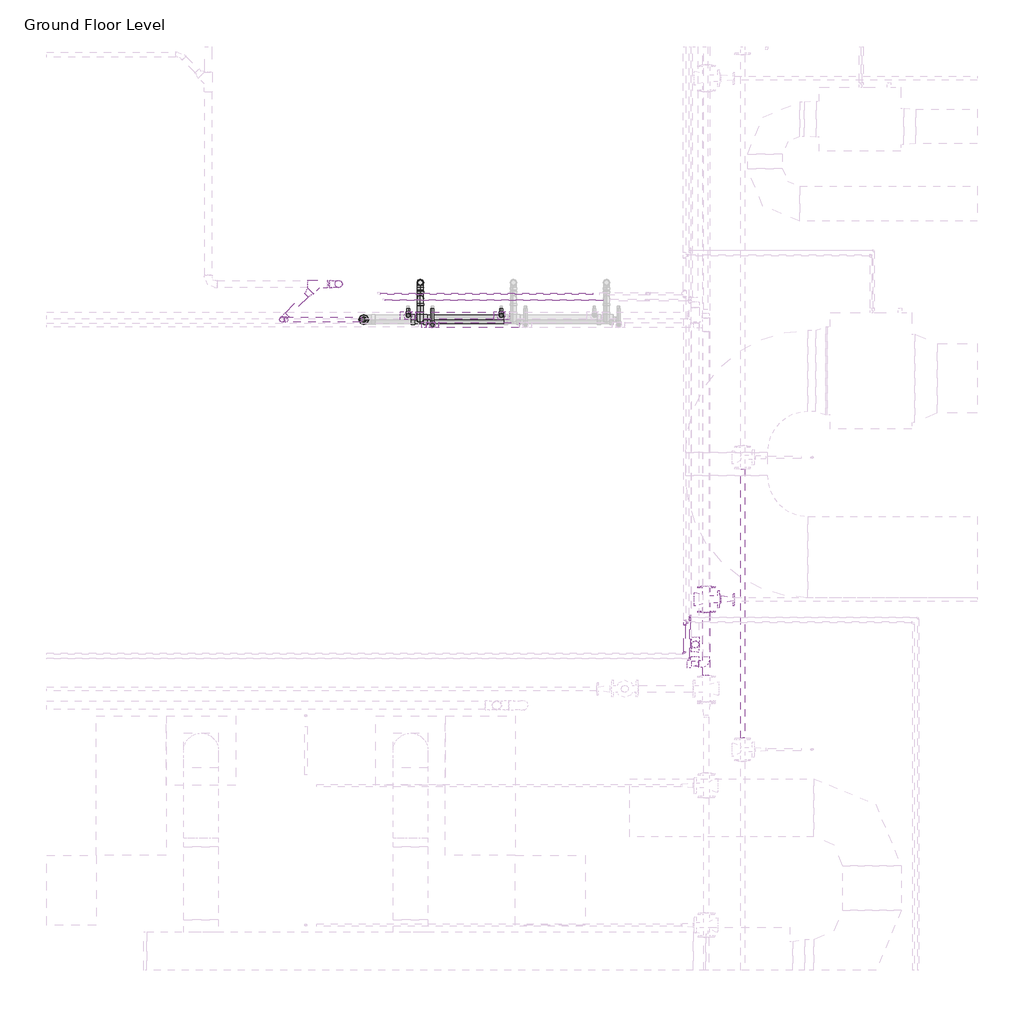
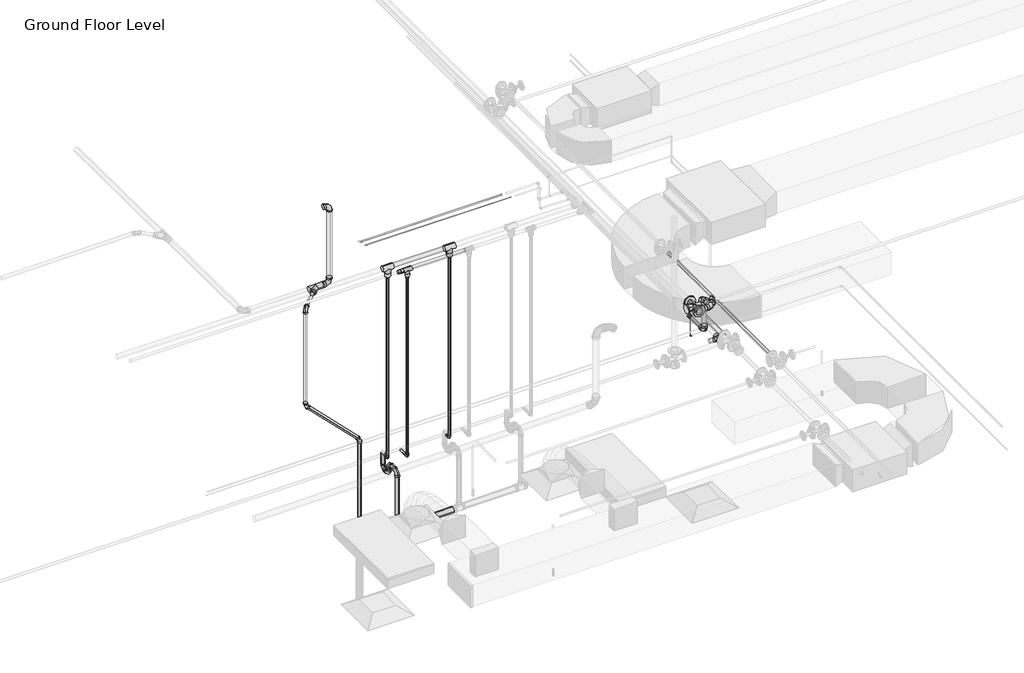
# One storey, part 16 of 74: 38 pipe fittings, 29 pipe segments.
"""IFC4 building model written with IfcOpenShell, lengths in millimetres."""

from ifc_helpers import new_model, si_unit, point, frame, frame_2d, origin, place, context, project, spatial, circle_curve, trimmed, segment, composite_curve, outline, extrude, transform, mapped, element, save
from components import m_bend_pvc_sch_40_dwv_standard_1e7bdcc1, m_bend_pvc_sch_40_dwv_standard_776e50c4, m_bend_pvc_sch_40_dwv_standard_aab78995, m_bend_pvc_sch_40_dwv_standard_952ced8a, m_bend_pvc_sch_40_dwv_standard_1eaeee76, m_bend_pvc_sch_40_dwv_standard_35448a73, m_bend_pvc_sch_40_dwv_standard_15ff6dcd, m_elbow_generic_standard_a088f956, m_elbow_generic_standard_2a704253, m_reducer_flanged_cs_class_150_standard_a7631c35, m_reducer_pvc_sch_40_dwv_standard_b84ad399, m_reducer_pvc_sch_40_dwv_standard_7e12a7c1, m_tee_generic_standard_5b2ed4d4, m_tee_generic_standard_cdc1cff5, m_tee_pvc_sch_40_standard_19f5fb6d, m_tee_reducing_sanitary_pvc_sch_40_dwv_standard_21d2848c, m_tee_round_base_flanged_cs_class_150_standard_dd767e04, m_transition_generic_standard_6dc712c0, m_transition_generic_standard_bdcfe2c1, m_transition_generic_standard_2d362458, standard_b266ab3f, standard_08ff6011, standard_d0d0b892, standard_cd25fed3, standard_83629b21, standard_57727813, standard_9d5ac8af, standard_102e5625

model = new_model("IFC4")

# Units and contexts
model_context = context("Model", 3, world=origin())
ifc_project = project(units=[si_unit("LENGTHUNIT", "METRE", prefix="MILLI")], contexts=[model_context])

# Site, building, storey
site = spatial("IfcSite", under=ifc_project)
building = spatial("IfcBuilding", under=site)
storey = spatial("IfcBuildingStorey", under=building, Name="Ground Floor Level", Elevation=900.0)

# Pipe fittings
placement = place(None, origin())
m_bend_pvc_sch_40_dwv_standard_shape = m_bend_pvc_sch_40_dwv_standard_1e7bdcc1(model_context)
element("IfcPipeFitting", 1, ObjectType="M_Bend - PVC - Sch 40 - DWV : Standard", at=placement, inside=storey, context=model_context, shape_type="MappedRepresentation", body=[
    mapped(m_bend_pvc_sch_40_dwv_standard_shape, transform((3226.7846789, -32541.2164355, 1350.0), x_axis=(0.0, 0.0, -1.0), y_axis=(0.0, -1.0, 0.0), z_axis=(-1.0, 0.0, 0.0))),
])
m_bend_pvc_sch_40_dwv_standard_2_shape = m_bend_pvc_sch_40_dwv_standard_776e50c4(model_context)
element("IfcPipeFitting", 2, ObjectType="M_Bend - PVC - Sch 40 - DWV : Standard", at=placement, inside=storey, context=model_context, shape_type="MappedRepresentation", body=[
    mapped(m_bend_pvc_sch_40_dwv_standard_2_shape, transform((3226.7846789, -32676.2164355, 1348.45), x_axis=(0.0, -0.9999500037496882, -0.009999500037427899), y_axis=(0.0, -0.009999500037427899, 0.9999500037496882), z_axis=(-1.0, 0.0, 0.0))),
])
element("IfcPipeFitting", 3, ObjectType="M_Bend - PVC - Sch 40 - DWV : Standard", at=placement, inside=storey, context=model_context, shape_type="MappedRepresentation", body=[
    mapped(m_bend_pvc_sch_40_dwv_standard_2_shape, transform((3226.7846789, -32676.2164355, 1490.0), x_axis=(0.0, 0.0, 1.0), y_axis=(0.0, -1.0, 0.0), z_axis=(1.0, 0.0, 0.0))),
])
m_bend_pvc_sch_40_dwv_standard_3_shape = m_bend_pvc_sch_40_dwv_standard_aab78995(model_context)
element("IfcPipeFitting", 4, ObjectType="M_Bend - PVC - Sch 40 - DWV : Standard", at=placement, inside=storey, context=model_context, shape_type="MappedRepresentation", body=[
    mapped(m_bend_pvc_sch_40_dwv_standard_3_shape, transform((3226.7846789, -32858.7119065, 1488.4250453), x_axis=(0.0, -0.999968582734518, -0.007926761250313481), y_axis=(0.0, 0.007926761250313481, -0.999968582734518), z_axis=(1.0, 0.0, 0.0))),
])
m_bend_pvc_sch_40_dwv_standard_4_shape = m_bend_pvc_sch_40_dwv_standard_952ced8a(model_context)
element("IfcPipeFitting", 5, ObjectType="M_Bend - PVC - Sch 40 - DWV : Standard", at=placement, inside=storey, context=model_context, shape_type="MappedRepresentation", body=[
    mapped(m_bend_pvc_sch_40_dwv_standard_4_shape, transform((2524.6562734, -32554.2948449, 4136.397893), x_axis=(0.9999500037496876, 0.0, 0.009999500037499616), y_axis=(-0.009999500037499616, 0.0, 0.9999500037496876), z_axis=(0.0, -1.0, 0.0))),
])
m_bend_pvc_sch_40_dwv_standard_5_shape = m_bend_pvc_sch_40_dwv_standard_1eaeee76(model_context)
element("IfcPipeFitting", 6, ObjectType="M_Bend - PVC - Sch 40 - DWV : Standard", at=placement, inside=storey, context=model_context, shape_type="MappedRepresentation", body=[
    mapped(m_bend_pvc_sch_40_dwv_standard_5_shape, transform((2524.640275, -32554.2948449, 5200.0), x_axis=(0.0, 0.0, 1.0), y_axis=(-1.0, 0.0, 0.0), z_axis=(0.0, -1.0, 0.0))),
])
m_bend_pvc_sch_40_dwv_standard_6_shape = m_bend_pvc_sch_40_dwv_standard_35448a73(model_context)
element("IfcPipeFitting", 7, ObjectType="M_Bend - PVC - Sch 40 - DWV : Standard", at=placement, inside=storey, context=model_context, shape_type="MappedRepresentation", body=[
    mapped(m_bend_pvc_sch_40_dwv_standard_6_shape, transform((2740.8154211, -32858.7119065, 2103.6875), x_axis=(0.0, 0.0, 1.0), y_axis=(-1.0, 0.0, 0.0), z_axis=(0.0, -1.0, 0.0))),
])
element("IfcPipeFitting", 8, ObjectType="M_Bend - PVC - Sch 40 - DWV : Standard", at=placement, inside=storey, context=model_context, shape_type="MappedRepresentation", body=[
    mapped(m_bend_pvc_sch_40_dwv_standard_6_shape, transform((2040.8154211, -32858.7119065, 2803.6875), x_axis=(0.0, 0.0, -1.0), y_axis=(1.0, 0.0, 0.0), z_axis=(0.0, -1.0, 0.0))),
])
m_bend_pvc_sch_40_dwv_standard_7_shape = m_bend_pvc_sch_40_dwv_standard_15ff6dcd(model_context)
element("IfcPipeFitting", 9, ObjectType="M_Bend - PVC - Sch 40 - DWV : Standard", at=placement, inside=storey, context=model_context, shape_type="MappedRepresentation", body=[
    mapped(m_bend_pvc_sch_40_dwv_standard_7_shape, transform((2040.8154211, -32858.7119065, 4132.2), x_axis=(0.0, 0.0, 1.0), y_axis=(0.7067664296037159, 0.7074469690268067, 0.0), z_axis=(-0.7074469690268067, 0.7067664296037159, 0.0))),
])
m_elbow_generic_standard_shape = m_elbow_generic_standard_a088f956(model_context)
element("IfcPipeFitting", 10, ObjectType="M_Elbow - Generic : Standard", at=placement, inside=storey, context=model_context, shape_type="MappedRepresentation", body=[
    mapped(m_elbow_generic_standard_shape, transform((5497.8951827, -35730.466218, 4390.0), x_axis=(1.0, 0.0, 0.0), y_axis=(0.0, 1.0, 0.0), z_axis=(0.0, 0.0, 1.0))),
])
m_elbow_generic_standard_2_shape = m_elbow_generic_standard_2a704253(model_context)
element("IfcPipeFitting", 11, ObjectType="M_Elbow - Generic : Standard", at=placement, inside=storey, context=model_context, shape_type="MappedRepresentation", body=[
    mapped(m_elbow_generic_standard_2_shape, transform((5543.9904113, -35773.5402522, 4377.5), x_axis=(1.0, 0.0, 0.0), y_axis=(0.0, 1.0, 0.0), z_axis=(0.0, 0.0, 1.0))),
])
element("IfcPipeFitting", 12, ObjectType="M_Elbow - Generic : Standard", at=placement, inside=storey, context=model_context, shape_type="MappedRepresentation", body=[
    mapped(m_elbow_generic_standard_2_shape, transform((5543.9904113, -35420.6009836, 4084.9), x_axis=(0.0, 0.0, -1.0), y_axis=(1.0, 0.0, 0.0), z_axis=(0.0, -1.0, 0.0))),
])
m_reducer_flanged_cs_class_150_standard_shape = m_reducer_flanged_cs_class_150_standard_a7631c35(model_context)
element("IfcPipeFitting", 13, ObjectType="M_Reducer - Flanged - CS - Class 150 : Standard", at=placement, inside=storey, context=model_context, shape_type="MappedRepresentation", body=[
    mapped(m_reducer_flanged_cs_class_150_standard_shape, transform((5798.6174894, -35264.7846466, 4347.5), x_axis=(1.0, 0.0, 0.0), y_axis=(0.0, 0.0, 1.0), z_axis=(0.0, -1.0, 0.0))),
])
m_reducer_pvc_sch_40_dwv_standard_shape = m_reducer_pvc_sch_40_dwv_standard_b84ad399(model_context)
element("IfcPipeFitting", 14, ObjectType="M_Reducer - PVC - Sch 40 - DWV : Standard", at=placement, inside=storey, context=model_context, shape_type="MappedRepresentation", body=[
    mapped(m_reducer_pvc_sch_40_dwv_standard_shape, transform((2740.8154211, -32858.7119065, 785.9492095), x_axis=(0.0, 0.0, 1.0), y_axis=(-1.0, 0.0, 0.0), z_axis=(0.0, -1.0, 0.0))),
])
m_reducer_pvc_sch_40_dwv_standard_2_shape = m_reducer_pvc_sch_40_dwv_standard_7e12a7c1(model_context)
element("IfcPipeFitting", 15, ObjectType="M_Reducer - PVC - Sch 40 - DWV : Standard", at=placement, inside=storey, context=model_context, shape_type="MappedRepresentation", body=[
    mapped(m_reducer_pvc_sch_40_dwv_standard_2_shape, transform((2285.3872765, -32613.9038225, 4134.1686229), x_axis=(-0.7067614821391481, -0.707433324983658, -0.0051281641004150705), y_axis=(0.7073812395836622, -0.7067747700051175, 0.009011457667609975), z_axis=(-0.009999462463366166, 0.0027413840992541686, 0.999946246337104))),
])
m_tee_generic_standard_shape = m_tee_generic_standard_5b2ed4d4(model_context)
element("IfcPipeFitting", 16, ObjectType="M_Tee - Generic : Standard", at=placement, inside=storey, context=model_context, shape_type="MappedRepresentation", body=[
    mapped(m_tee_generic_standard_shape, transform((5543.9904113, -35420.6009836, 4377.5), x_axis=(0.0, 1.0, 0.0), y_axis=(0.0, 0.0, 1.0), z_axis=(1.0, 0.0, 0.0))),
])
m_tee_generic_standard_2_shape = m_tee_generic_standard_cdc1cff5(model_context)
element("IfcPipeFitting", 17, ObjectType="M_Tee - Generic : Standard", at=placement, inside=storey, context=model_context, shape_type="MappedRepresentation", body=[
    mapped(m_tee_generic_standard_2_shape, transform((5497.8951827, -35463.1206952, 4390.0), x_axis=(0.0, 1.0, 0.0), y_axis=(-1.0, 0.0, 0.0), z_axis=(0.0, 0.0, 1.0))),
])
m_tee_pvc_sch_40_standard_shape = m_tee_pvc_sch_40_standard_19f5fb6d(model_context)
element("IfcPipeFitting", 18, ObjectType="M_Tee - PVC - Sch 40 : Standard", at=placement, inside=storey, context=model_context, shape_type="MappedRepresentation", body=[
    mapped(m_tee_pvc_sch_40_standard_shape, transform((2344.939644, -32554.2948449, 4134.6007267), x_axis=(0.9999500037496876, 0.0, 0.009999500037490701), y_axis=(2.7412470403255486e-05, 0.9999962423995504, -0.002741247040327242), z_axis=(-0.009999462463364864, 0.0027413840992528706, 0.9999462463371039))),
])
m_tee_reducing_sanitary_pvc_sch_40_dwv_standard_shape = m_tee_reducing_sanitary_pvc_sch_40_dwv_standard_21d2848c(model_context)
element("IfcPipeFitting", 19, ObjectType="M_Tee Reducing Sanitary - PVC - Sch 40 - DWV : Standard", at=placement, inside=storey, context=model_context, shape_type="MappedRepresentation", body=[
    mapped(m_tee_reducing_sanitary_pvc_sch_40_dwv_standard_shape, transform((3226.7846789, -32858.7119065, 706.4596926), x_axis=(0.9999500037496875, 0.0, 0.00999950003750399), y_axis=(0.00999950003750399, 0.0, -0.9999500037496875), z_axis=(0.0, 1.0, 0.0))),
])
m_tee_round_base_flanged_cs_class_150_standard_shape = m_tee_round_base_flanged_cs_class_150_standard_dd767e04(model_context)
element("IfcPipeFitting", 20, ObjectType="M_Tee Round Base - Flanged - CS - Class 150 : Standard", at=placement, inside=storey, context=model_context, shape_type="MappedRepresentation", body=[
    mapped(m_tee_round_base_flanged_cs_class_150_standard_shape, transform((5684.6174894, -35264.7846466, 4347.5), x_axis=(0.0, -1.0, 0.0), y_axis=(-1.0, 0.0, 0.0), z_axis=(0.0, 0.0, -1.0))),
])
m_transition_generic_standard_shape = m_transition_generic_standard_6dc712c0(model_context)
element("IfcPipeFitting", 21, ObjectType="M_Transition - Generic : Standard", at=placement, inside=storey, context=model_context, shape_type="MappedRepresentation", body=[
    mapped(m_transition_generic_standard_shape, transform((5497.8951827, -35485.3456952, 4390.0), x_axis=(0.0, -1.0, 0.0), y_axis=(1.0, 0.0, 0.0), z_axis=(0.0, 0.0, 1.0))),
])
element("IfcPipeFitting", 22, ObjectType="M_Transition - Generic : Standard", at=placement, inside=storey, context=model_context, shape_type="MappedRepresentation", body=[
    mapped(m_transition_generic_standard_shape, transform((5520.1201827, -35463.1206952, 4390.0), x_axis=(1.0, 0.0, 0.0), y_axis=(0.0, 1.0, 0.0), z_axis=(0.0, 0.0, 1.0))),
])
m_transition_generic_standard_2_shape = m_transition_generic_standard_bdcfe2c1(model_context)
element("IfcPipeFitting", 23, ObjectType="M_Transition - Generic : Standard", at=placement, inside=storey, context=model_context, shape_type="MappedRepresentation", body=[
    mapped(m_transition_generic_standard_2_shape, transform((5543.9904113, -35441.2384836, 4377.5), x_axis=(0.0, -1.0, 0.0), y_axis=(1.0, 0.0, 0.0), z_axis=(0.0, 0.0, 1.0))),
])
m_transition_generic_standard_3_shape = m_transition_generic_standard_2d362458(model_context)
element("IfcPipeFitting", 24, ObjectType="M_Transition - Generic : Standard", at=placement, inside=storey, context=model_context, shape_type="MappedRepresentation", body=[
    mapped(m_transition_generic_standard_3_shape, transform((5543.9904113, -35420.6009836, 4356.8625), x_axis=(0.0, 0.0, -1.0), y_axis=(-1.0, 0.0, 0.0), z_axis=(0.0, 1.0, 0.0))),
])
standard_shape = standard_b266ab3f(model_context)
element("IfcPipeFitting", 25, ObjectType="M_Elbow - CPVC - Sch 40 : Standard", at=placement, inside=storey, context=model_context, shape_type="MappedRepresentation", body=[
    mapped(standard_shape, transform((3922.4697583, -32824.9853451, 1690.0), x_axis=(0.0, 0.0, -1.0), y_axis=(0.0, 1.0, 0.0), z_axis=(1.0, 0.0, 0.0))),
])
element("IfcPipeFitting", 26, ObjectType="M_Elbow - CPVC - Sch 40 : Standard", at=placement, inside=storey, context=model_context, shape_type="MappedRepresentation", body=[
    mapped(standard_shape, transform((3122.4697583, -32824.9853451, 1690.0), x_axis=(0.0, 0.0, -1.0), y_axis=(0.0, 1.0, 0.0), z_axis=(1.0, 0.0, 0.0))),
])
element("IfcPipeFitting", 27, ObjectType="M_Elbow - CPVC - Sch 40 : Standard", at=placement, inside=storey, context=model_context, shape_type="MappedRepresentation", body=[
    mapped(standard_shape, transform((3331.0995995, -32905.870708, 1690.0), x_axis=(0.0, -1.0, 0.0), y_axis=(0.0, 0.0, 1.0), z_axis=(-1.0, 0.0, 0.0))),
])
standard_2_shape = standard_08ff6011(model_context)
element("IfcPipeFitting", 28, ObjectType="M_Tee - CPVC - Sch 40 : Standard", at=placement, inside=storey, context=model_context, shape_type="MappedRepresentation", body=[
    mapped(standard_2_shape, transform((3331.0995995, -32905.870708, 4250.0), x_axis=(1.0, 0.0, 0.0), y_axis=(0.0, 0.0, 1.0), z_axis=(0.0, -1.0, 0.0))),
])
standard_3_shape = standard_d0d0b892(model_context)
element("IfcPipeFitting", 29, ObjectType="M_Coupling Reducing - CPVC - Sch 40 : Standard", at=placement, inside=storey, context=model_context, shape_type="MappedRepresentation", body=[
    mapped(standard_3_shape, transform((3277.1245995, -32905.870708, 4250.0), x_axis=(-1.0, 0.0, 0.0), y_axis=(0.0, -1.0, 0.0), z_axis=(0.0, 0.0, 1.0))),
])
standard_4_shape = standard_cd25fed3(model_context)
element("IfcPipeFitting", 30, ObjectType="M_Tee - CPVC - Sch 40 : Standard", at=placement, inside=storey, context=model_context, shape_type="MappedRepresentation", body=[
    mapped(standard_4_shape, transform((3922.4697583, -32824.9853451, 4300.0), x_axis=(-1.0, 0.0, 0.0), y_axis=(0.0, 0.0, 1.0), z_axis=(0.0, 1.0, 0.0))),
])
element("IfcPipeFitting", 31, ObjectType="M_Tee - CPVC - Sch 40 : Standard", at=placement, inside=storey, context=model_context, shape_type="MappedRepresentation", body=[
    mapped(standard_4_shape, transform((3122.4697583, -32824.9853451, 4300.0), x_axis=(-1.0, 0.0, 0.0), y_axis=(0.0, 0.0, 1.0), z_axis=(0.0, 1.0, 0.0))),
])
standard_5_shape = standard_83629b21(model_context)
element("IfcPipeFitting", 32, ObjectType="M_Coupling Reducing - CPVC - Sch 40 : Standard", at=placement, inside=storey, context=model_context, shape_type="MappedRepresentation", body=[
    mapped(standard_5_shape, transform((3331.0995995, -32905.870708, 4196.025), x_axis=(0.0, 0.0, -1.0), y_axis=(-1.0, 0.0, 0.0), z_axis=(0.0, 1.0, 0.0))),
])
standard_6_shape = standard_57727813(model_context)
element("IfcPipeFitting", 33, ObjectType="M_Elbow - CPVC - Sch 40 : Standard", at=placement, inside=storey, context=model_context, shape_type="MappedRepresentation", body=[
    mapped(standard_6_shape, transform((5589.646628, -35653.7116931, 4719.8375), x_axis=(0.0, 0.0, 1.0), y_axis=(-0.06975647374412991, -0.997564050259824, 0.0), z_axis=(0.997564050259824, -0.06975647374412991, 0.0))),
])
element("IfcPipeFitting", 34, ObjectType="M_Elbow - CPVC - Sch 40 : Standard", at=placement, inside=storey, context=model_context, shape_type="MappedRepresentation", body=[
    mapped(standard_6_shape, transform((5585.1617227, -35819.459752, 4719.8375), x_axis=(1.0, 0.0, 0.0), y_axis=(0.0, 1.0, 0.0), z_axis=(0.0, 0.0, 1.0))),
])
element("IfcPipeFitting", 35, ObjectType="M_Elbow - CPVC - Sch 40 : Standard", at=placement, inside=storey, context=model_context, shape_type="MappedRepresentation", body=[
    mapped(standard_6_shape, transform((5589.646628, -35653.7116931, 4300.0), x_axis=(0.0, 0.0, -1.0), y_axis=(0.0, 1.0, 0.0), z_axis=(1.0, 0.0, 0.0))),
])
standard_7_shape = standard_9d5ac8af(model_context)
element("IfcPipeFitting", 36, ObjectType="M_Coupling Reducing - CPVC - Sch 40 : Standard", at=placement, inside=storey, context=model_context, shape_type="MappedRepresentation", body=[
    mapped(standard_7_shape, transform((3922.4697583, -32824.9853451, 4233.325), x_axis=(0.0, 0.0, -1.0), y_axis=(-1.0, 0.0, 0.0), z_axis=(0.0, 1.0, 0.0))),
])
element("IfcPipeFitting", 37, ObjectType="M_Coupling Reducing - CPVC - Sch 40 : Standard", at=placement, inside=storey, context=model_context, shape_type="MappedRepresentation", body=[
    mapped(standard_7_shape, transform((3122.4697583, -32824.9853451, 4233.325), x_axis=(0.0, 0.0, -1.0), y_axis=(-1.0, 0.0, 0.0), z_axis=(0.0, 1.0, 0.0))),
])
standard_8_shape = standard_102e5625(model_context)
element("IfcPipeFitting", 38, ObjectType="M_Elbow - CPVC - Sch 40 : Standard", at=placement, inside=storey, context=model_context, shape_type="MappedRepresentation", body=[
    mapped(standard_8_shape, transform((5680.5575802, -35819.459752, 4250.0), x_axis=(1.0, 0.0, 0.0), y_axis=(0.0, 1.0, 0.0), z_axis=(0.0, 0.0, 1.0))),
])

# Pipe segments
element("IfcPipeSegment", 39, ObjectType="CPVC", at=placement, inside=storey, context=model_context, shape_type="SweptSolid", body=[
    extrude(outline(composite_curve([segment(trimmed(circle_curve(frame_2d((5589.646628, -35653.7116931)), 30.1625), [point((5559.484128, -35653.7116931))], [point((5589.646628, -35623.5491931))], False, "CARTESIAN"), True, "CONTINUOUS"), segment(trimmed(circle_curve(frame_2d((5589.646628, -35653.7116931)), 30.1625), [point((5589.646628, -35623.5491931))], [point((5619.809128, -35653.7116931))], False, "CARTESIAN"), True, "CONTINUOUS"), segment(trimmed(circle_curve(frame_2d((5589.646628, -35653.7116931)), 30.1625), [point((5619.809128, -35653.7116931))], [point((5589.646628, -35683.8741931))], False, "CARTESIAN"), True, "CONTINUOUS"), segment(trimmed(circle_curve(frame_2d((5589.646628, -35653.7116931)), 30.1625), [point((5589.646628, -35683.8741931))], [point((5559.484128, -35653.7116931))], False, "CARTESIAN"), True, "CONTINUOUS")], self_intersect=False)), frame((0.0, 0.0, 4364.29375), z_axis=(0.0, 0.0, 1.0), x_axis=(1.0, 0.0, 0.0)), (0.0, 0.0, 1.0), 291.25),
])
element("IfcPipeSegment", 40, ObjectType="CPVC", at=placement, inside=storey, context=model_context, shape_type="SweptSolid", body=[
    extrude(outline(composite_curve([segment(trimmed(circle_curve(frame_2d((1690.0, 3922.4697583)), 13.335), [point((1690.0, 3935.8047583))], [point((1703.335, 3922.4697583))], False, "CARTESIAN"), True, "CONTINUOUS"), segment(trimmed(circle_curve(frame_2d((1690.0, 3922.4697583)), 13.335), [point((1703.335, 3922.4697583))], [point((1690.0, 3909.1347583))], False, "CARTESIAN"), True, "CONTINUOUS"), segment(trimmed(circle_curve(frame_2d((1690.0, 3922.4697583)), 13.335), [point((1690.0, 3909.1347583))], [point((1676.665, 3922.4697583))], False, "CARTESIAN"), True, "CONTINUOUS"), segment(trimmed(circle_curve(frame_2d((1690.0, 3922.4697583)), 13.335), [point((1676.665, 3922.4697583))], [point((1690.0, 3935.8047583))], False, "CARTESIAN"), True, "CONTINUOUS")], self_intersect=False)), frame((0.0, -32789.6602951, 0.0), z_axis=(0.0, 1.0, 0.0), x_axis=(0.0, 0.0, 1.0)), (0.0, 0.0, 1.0), 24.8756485),
])
element("IfcPipeSegment", 41, ObjectType="CPVC", at=placement, inside=storey, context=model_context, shape_type="SweptSolid", body=[
    extrude(outline(composite_curve([segment(trimmed(circle_curve(frame_2d((3922.4697583, -32824.9853451)), 13.335), [point((3935.8047583, -32824.9853451))], [point((3922.4697583, -32838.3203451))], False, "CARTESIAN"), True, "CONTINUOUS"), segment(trimmed(circle_curve(frame_2d((3922.4697583, -32824.9853451)), 13.335), [point((3922.4697583, -32838.3203451))], [point((3909.1347583, -32824.9853451))], False, "CARTESIAN"), True, "CONTINUOUS"), segment(trimmed(circle_curve(frame_2d((3922.4697583, -32824.9853451)), 13.335), [point((3909.1347583, -32824.9853451))], [point((3922.4697583, -32811.6503451))], False, "CARTESIAN"), True, "CONTINUOUS"), segment(trimmed(circle_curve(frame_2d((3922.4697583, -32824.9853451)), 13.335), [point((3922.4697583, -32811.6503451))], [point((3935.8047583, -32824.9853451))], False, "CARTESIAN"), True, "CONTINUOUS")], self_intersect=False)), frame((0.0, 0.0, 1725.32505), z_axis=(0.0, 0.0, 1.0), x_axis=(1.0, 0.0, 0.0)), (0.0, 0.0, 1.0), 2431.503075),
])
element("IfcPipeSegment", 42, ObjectType="CPVC", at=placement, inside=storey, context=model_context, shape_type="SweptSolid", body=[
    extrude(outline(composite_curve([segment(trimmed(circle_curve(frame_2d((-32824.9853451, 4300.0)), 30.1625), [point((-32855.1478451, 4300.0))], [point((-32824.9853451, 4330.1625))], False, "CARTESIAN"), True, "CONTINUOUS"), segment(trimmed(circle_curve(frame_2d((-32824.9853451, 4300.0)), 30.1625), [point((-32824.9853451, 4330.1625))], [point((-32794.8228451, 4300.0))], False, "CARTESIAN"), True, "CONTINUOUS"), segment(trimmed(circle_curve(frame_2d((-32824.9853451, 4300.0)), 30.1625), [point((-32794.8228451, 4300.0))], [point((-32824.9853451, 4269.8375))], False, "CARTESIAN"), True, "CONTINUOUS"), segment(trimmed(circle_curve(frame_2d((-32824.9853451, 4300.0)), 30.1625), [point((-32824.9853451, 4269.8375))], [point((-32855.1478451, 4300.0))], False, "CARTESIAN"), True, "CONTINUOUS")], self_intersect=False)), frame((3189.1447583, 0.0, 0.0), z_axis=(1.0, 0.0, 0.0), x_axis=(0.0, 1.0, 0.0)), (0.0, 0.0, 1.0), 666.65),
])
element("IfcPipeSegment", 43, ObjectType="CPVC", at=placement, inside=storey, context=model_context, shape_type="SweptSolid", body=[
    extrude(outline(composite_curve([segment(trimmed(circle_curve(frame_2d((1690.0, 3122.4697583)), 13.335), [point((1690.0, 3135.8047583))], [point((1703.335, 3122.4697583))], False, "CARTESIAN"), True, "CONTINUOUS"), segment(trimmed(circle_curve(frame_2d((1690.0, 3122.4697583)), 13.335), [point((1703.335, 3122.4697583))], [point((1690.0, 3109.1347583))], False, "CARTESIAN"), True, "CONTINUOUS"), segment(trimmed(circle_curve(frame_2d((1690.0, 3122.4697583)), 13.335), [point((1690.0, 3109.1347583))], [point((1676.665, 3122.4697583))], False, "CARTESIAN"), True, "CONTINUOUS"), segment(trimmed(circle_curve(frame_2d((1690.0, 3122.4697583)), 13.335), [point((1676.665, 3122.4697583))], [point((1690.0, 3135.8047583))], False, "CARTESIAN"), True, "CONTINUOUS")], self_intersect=False)), frame((0.0, -32789.6602951, 0.0), z_axis=(0.0, 1.0, 0.0), x_axis=(0.0, 0.0, 1.0)), (0.0, 0.0, 1.0), 24.8756485),
])
element("IfcPipeSegment", 44, ObjectType="CPVC", at=placement, inside=storey, context=model_context, shape_type="SweptSolid", body=[
    extrude(outline(composite_curve([segment(trimmed(circle_curve(frame_2d((3122.4697583, -32824.9853451)), 13.335), [point((3135.8047583, -32824.9853451))], [point((3122.4697583, -32838.3203451))], False, "CARTESIAN"), True, "CONTINUOUS"), segment(trimmed(circle_curve(frame_2d((3122.4697583, -32824.9853451)), 13.335), [point((3122.4697583, -32838.3203451))], [point((3109.1347583, -32824.9853451))], False, "CARTESIAN"), True, "CONTINUOUS"), segment(trimmed(circle_curve(frame_2d((3122.4697583, -32824.9853451)), 13.335), [point((3109.1347583, -32824.9853451))], [point((3122.4697583, -32811.6503451))], False, "CARTESIAN"), True, "CONTINUOUS"), segment(trimmed(circle_curve(frame_2d((3122.4697583, -32824.9853451)), 13.335), [point((3122.4697583, -32811.6503451))], [point((3135.8047583, -32824.9853451))], False, "CARTESIAN"), True, "CONTINUOUS")], self_intersect=False)), frame((0.0, 0.0, 1725.32505), z_axis=(0.0, 0.0, 1.0), x_axis=(1.0, 0.0, 0.0)), (0.0, 0.0, 1.0), 2431.503075),
])
element("IfcPipeSegment", 45, ObjectType="CPVC", at=placement, inside=storey, context=model_context, shape_type="SweptSolid", body=[
    extrude(outline(composite_curve([segment(trimmed(circle_curve(frame_2d((1690.0, 3331.0995995)), 13.335), [point((1690.0, 3317.7645995))], [point((1676.665, 3331.0995995))], False, "CARTESIAN"), True, "CONTINUOUS"), segment(trimmed(circle_curve(frame_2d((1690.0, 3331.0995995)), 13.335), [point((1676.665, 3331.0995995))], [point((1690.0, 3344.4345995))], False, "CARTESIAN"), True, "CONTINUOUS"), segment(trimmed(circle_curve(frame_2d((1690.0, 3331.0995995)), 13.335), [point((1690.0, 3344.4345995))], [point((1703.335, 3331.0995995))], False, "CARTESIAN"), True, "CONTINUOUS"), segment(trimmed(circle_curve(frame_2d((1690.0, 3331.0995995)), 13.335), [point((1703.335, 3331.0995995))], [point((1690.0, 3317.7645995))], False, "CARTESIAN"), True, "CONTINUOUS")], self_intersect=False)), frame((0.0, -32870.545658, 0.0), z_axis=(0.0, 1.0, 0.0), x_axis=(0.0, 0.0, 1.0)), (0.0, 0.0, 1.0), 105.7610114),
])
element("IfcPipeSegment", 46, ObjectType="CPVC", at=placement, inside=storey, context=model_context, shape_type="SweptSolid", body=[
    extrude(outline(composite_curve([segment(trimmed(circle_curve(frame_2d((3331.0995995, -32905.870708)), 13.335), [point((3317.7645995, -32905.870708))], [point((3331.0995995, -32892.535708))], False, "CARTESIAN"), True, "CONTINUOUS"), segment(trimmed(circle_curve(frame_2d((3331.0995995, -32905.870708)), 13.335), [point((3331.0995995, -32892.535708))], [point((3344.4345995, -32905.870708))], False, "CARTESIAN"), True, "CONTINUOUS"), segment(trimmed(circle_curve(frame_2d((3331.0995995, -32905.870708)), 13.335), [point((3344.4345995, -32905.870708))], [point((3331.0995995, -32919.205708))], False, "CARTESIAN"), True, "CONTINUOUS"), segment(trimmed(circle_curve(frame_2d((3331.0995995, -32905.870708)), 13.335), [point((3331.0995995, -32919.205708))], [point((3317.7645995, -32905.870708))], False, "CARTESIAN"), True, "CONTINUOUS")], self_intersect=False)), frame((0.0, 0.0, 1725.32505), z_axis=(0.0, 0.0, 1.0), x_axis=(1.0, 0.0, 0.0)), (0.0, 0.0, 1.0), 2407.883075),
])
element("IfcPipeSegment", 47, ObjectType="CPVC", at=placement, inside=storey, context=model_context, shape_type="SweptSolid", body=[
    extrude(outline(composite_curve([segment(trimmed(circle_curve(frame_2d((-32905.870708, 4250.0)), 21.082), [point((-32884.788708, 4250.0))], [point((-32905.870708, 4228.918))], False, "CARTESIAN"), True, "CONTINUOUS"), segment(trimmed(circle_curve(frame_2d((-32905.870708, 4250.0)), 21.082), [point((-32905.870708, 4228.918))], [point((-32926.952708, 4250.0))], False, "CARTESIAN"), True, "CONTINUOUS"), segment(trimmed(circle_curve(frame_2d((-32905.870708, 4250.0)), 21.082), [point((-32926.952708, 4250.0))], [point((-32905.870708, 4271.082))], False, "CARTESIAN"), True, "CONTINUOUS"), segment(trimmed(circle_curve(frame_2d((-32905.870708, 4250.0)), 21.082), [point((-32905.870708, 4271.082))], [point((-32884.788708, 4250.0))], False, "CARTESIAN"), True, "CONTINUOUS")], self_intersect=False)), frame((3385.0745995, 0.0, 0.0), z_axis=(1.0, 0.0, 0.0), x_axis=(0.0, 1.0, 0.0)), (0.0, 0.0, 1.0), 692.05),
])
element("IfcPipeSegment", 48, ObjectType="CPVC", at=placement, inside=storey, context=model_context, shape_type="SweptSolid", body=[
    extrude(outline(composite_curve([segment(trimmed(circle_curve(frame_2d((-35819.459752, 4250.0)), 24.13), [point((-35843.589752, 4250.0))], [point((-35819.459752, 4274.13))], False, "CARTESIAN"), True, "CONTINUOUS"), segment(trimmed(circle_curve(frame_2d((-35819.459752, 4250.0)), 24.13), [point((-35819.459752, 4274.13))], [point((-35795.329752, 4250.0))], False, "CARTESIAN"), True, "CONTINUOUS"), segment(trimmed(circle_curve(frame_2d((-35819.459752, 4250.0)), 24.13), [point((-35795.329752, 4250.0))], [point((-35819.459752, 4225.87))], False, "CARTESIAN"), True, "CONTINUOUS"), segment(trimmed(circle_curve(frame_2d((-35819.459752, 4250.0)), 24.13), [point((-35819.459752, 4225.87))], [point((-35843.589752, 4250.0))], False, "CARTESIAN"), True, "CONTINUOUS")], self_intersect=False)), frame((5558.4766944, 0.0, 0.0), z_axis=(1.0, 0.0, 0.0), x_axis=(0.0, 1.0, 0.0)), (0.0, 0.0, 1.0), 59.3619358),
])
element("IfcPipeSegment", 49, ObjectType="Copper", at=placement, inside=storey, context=model_context, shape_type="SweptSolid", body=[
    extrude(outline(composite_curve([segment(trimmed(circle_curve(frame_2d((4390.0, 5497.8951827)), 6.5), [point((4390.0, 5491.3951827))], [point((4383.5, 5497.8951827))], False, "CARTESIAN"), True, "CONTINUOUS"), segment(trimmed(circle_curve(frame_2d((4390.0, 5497.8951827)), 6.5), [point((4383.5, 5497.8951827))], [point((4390.0, 5504.3951827))], False, "CARTESIAN"), True, "CONTINUOUS"), segment(trimmed(circle_curve(frame_2d((4390.0, 5497.8951827)), 6.5), [point((4390.0, 5504.3951827))], [point((4396.5, 5497.8951827))], False, "CARTESIAN"), True, "CONTINUOUS"), segment(trimmed(circle_curve(frame_2d((4390.0, 5497.8951827)), 6.5), [point((4396.5, 5497.8951827))], [point((4390.0, 5491.3951827))], False, "CARTESIAN"), True, "CONTINUOUS")], self_intersect=False)), frame((0.0, -35716.178718, 0.0), z_axis=(0.0, 1.0, 0.0), x_axis=(0.0, 0.0, 1.0)), (0.0, 0.0, 1.0), 226.0705229),
])
element("IfcPipeSegment", 50, ObjectType="Copper", at=placement, inside=storey, context=model_context, shape_type="SweptSolid", body=[
    extrude(outline(composite_curve([segment(trimmed(circle_curve(frame_2d((4377.5, 5543.9904113)), 3.35), [point((4377.5, 5540.6404113))], [point((4374.15, 5543.9904113))], False, "CARTESIAN"), True, "CONTINUOUS"), segment(trimmed(circle_curve(frame_2d((4377.5, 5543.9904113)), 3.35), [point((4374.15, 5543.9904113))], [point((4377.5, 5547.3404113))], False, "CARTESIAN"), True, "CONTINUOUS"), segment(trimmed(circle_curve(frame_2d((4377.5, 5543.9904113)), 3.35), [point((4377.5, 5547.3404113))], [point((4380.85, 5543.9904113))], False, "CARTESIAN"), True, "CONTINUOUS"), segment(trimmed(circle_curve(frame_2d((4377.5, 5543.9904113)), 3.35), [point((4380.85, 5543.9904113))], [point((4377.5, 5540.6404113))], False, "CARTESIAN"), True, "CONTINUOUS")], self_intersect=False)), frame((0.0, -35762.4027522, 0.0), z_axis=(0.0, 1.0, 0.0), x_axis=(0.0, 0.0, 1.0)), (0.0, 0.0, 1.0), 317.1955186),
])
element("IfcPipeSegment", 51, ObjectType="Copper", at=placement, inside=storey, context=model_context, shape_type="SweptSolid", body=[
    extrude(outline(composite_curve([segment(trimmed(circle_curve(frame_2d((-32638.716218, 4621.4908765)), 8.1), [point((-32646.816218, 4621.4908765))], [point((-32638.716218, 4629.5908765))], False, "CARTESIAN"), True, "CONTINUOUS"), segment(trimmed(circle_curve(frame_2d((-32638.716218, 4621.4908765)), 8.1), [point((-32638.716218, 4629.5908765))], [point((-32630.616218, 4621.4908765))], False, "CARTESIAN"), True, "CONTINUOUS"), segment(trimmed(circle_curve(frame_2d((-32638.716218, 4621.4908765)), 8.1), [point((-32630.616218, 4621.4908765))], [point((-32638.716218, 4613.3908765))], False, "CARTESIAN"), True, "CONTINUOUS"), segment(trimmed(circle_curve(frame_2d((-32638.716218, 4621.4908765)), 8.1), [point((-32638.716218, 4613.3908765))], [point((-32646.816218, 4621.4908765))], False, "CARTESIAN"), True, "CONTINUOUS")], self_intersect=False)), frame((2883.1643107, 0.0, 0.0), z_axis=(1.0, 0.0, 0.0), x_axis=(0.0, 1.0, 0.0)), (0.0, 0.0, 1.0), 1826.6062839),
])
element("IfcPipeSegment", 52, ObjectType="Copper", at=placement, inside=storey, context=model_context, shape_type="SweptSolid", body=[
    extrude(outline(composite_curve([segment(trimmed(circle_curve(frame_2d((-32691.5527522, 4591.0863665)), 4.9), [point((-32686.6527522, 4591.0863665))], [point((-32691.5527522, 4586.1863665))], False, "CARTESIAN"), True, "CONTINUOUS"), segment(trimmed(circle_curve(frame_2d((-32691.5527522, 4591.0863665)), 4.9), [point((-32691.5527522, 4586.1863665))], [point((-32696.4527522, 4591.0863665))], False, "CARTESIAN"), True, "CONTINUOUS"), segment(trimmed(circle_curve(frame_2d((-32691.5527522, 4591.0863665)), 4.9), [point((-32696.4527522, 4591.0863665))], [point((-32691.5527522, 4595.9863665))], False, "CARTESIAN"), True, "CONTINUOUS"), segment(trimmed(circle_curve(frame_2d((-32691.5527522, 4591.0863665)), 4.9), [point((-32691.5527522, 4595.9863665))], [point((-32686.6527522, 4591.0863665))], False, "CARTESIAN"), True, "CONTINUOUS")], self_intersect=False)), frame((2924.0496079, 0.0, 0.0), z_axis=(1.0, 0.0, 0.0), x_axis=(0.0, 1.0, 0.0)), (0.0, 0.0, 1.0), 1873.9099107),
])
element("IfcPipeSegment", 53, ObjectType="Copper", at=placement, inside=storey, context=model_context, shape_type="SweptSolid", body=[
    extrude(outline(composite_curve([segment(trimmed(circle_curve(frame_2d((5543.9904113, -35420.6009836)), 3.35), [point((5547.3404113, -35420.6009836))], [point((5543.9904113, -35423.9509836))], False, "CARTESIAN"), True, "CONTINUOUS"), segment(trimmed(circle_curve(frame_2d((5543.9904113, -35420.6009836)), 3.35), [point((5543.9904113, -35423.9509836))], [point((5540.6404113, -35420.6009836))], False, "CARTESIAN"), True, "CONTINUOUS"), segment(trimmed(circle_curve(frame_2d((5543.9904113, -35420.6009836)), 3.35), [point((5540.6404113, -35420.6009836))], [point((5543.9904113, -35417.2509836))], False, "CARTESIAN"), True, "CONTINUOUS"), segment(trimmed(circle_curve(frame_2d((5543.9904113, -35420.6009836)), 3.35), [point((5543.9904113, -35417.2509836))], [point((5547.3404113, -35420.6009836))], False, "CARTESIAN"), True, "CONTINUOUS")], self_intersect=False)), frame((0.0, 0.0, 4096.0375), z_axis=(0.0, 0.0, 1.0), x_axis=(1.0, 0.0, 0.0)), (0.0, 0.0, 1.0), 256.85625),
])
element("IfcPipeSegment", 54, ObjectType="PVC - DWV", at=placement, inside=storey, context=model_context, shape_type="SweptSolid", body=[
    extrude(outline(composite_curve([segment(trimmed(circle_curve(frame_2d((3226.7846789, -32541.2164355)), 24.13), [point((3250.9146789, -32541.2164355))], [point((3226.7846789, -32565.3464355))], False, "CARTESIAN"), True, "CONTINUOUS"), segment(trimmed(circle_curve(frame_2d((3226.7846789, -32541.2164355)), 24.13), [point((3226.7846789, -32565.3464355))], [point((3202.6546789, -32541.2164355))], False, "CARTESIAN"), True, "CONTINUOUS"), segment(trimmed(circle_curve(frame_2d((3226.7846789, -32541.2164355)), 24.13), [point((3202.6546789, -32541.2164355))], [point((3226.7846789, -32517.0864355))], False, "CARTESIAN"), True, "CONTINUOUS"), segment(trimmed(circle_curve(frame_2d((3226.7846789, -32541.2164355)), 24.13), [point((3226.7846789, -32517.0864355))], [point((3250.9146789, -32541.2164355))], False, "CARTESIAN"), True, "CONTINUOUS")], self_intersect=False)), frame((0.0, 0.0, 1411.8998), z_axis=(0.0, 0.0, 1.0), x_axis=(1.0, 0.0, 0.0)), (0.0, 0.0, 1.0), 138.1002),
])
element("IfcPipeSegment", 55, ObjectType="PVC - DWV", at=placement, inside=storey, context=model_context, shape_type="SweptSolid", body=[
    extrude(outline(composite_curve([segment(trimmed(circle_curve(frame_2d((0.0, -24.13)), 24.13), [point((-24.13, -24.13))], [point((0.0, 0.0))], False, "CARTESIAN"), True, "CONTINUOUS"), segment(trimmed(circle_curve(frame_2d((0.0, -24.13)), 24.13), [point((0.0, 0.0))], [point((24.13, -24.13))], False, "CARTESIAN"), True, "CONTINUOUS"), segment(trimmed(circle_curve(frame_2d((0.0, -24.13)), 24.13), [point((24.13, -24.13))], [point((0.0, -48.2599999))], False, "CARTESIAN"), True, "CONTINUOUS"), segment(trimmed(circle_curve(frame_2d((0.0, -24.13)), 24.13), [point((0.0, -48.2599999))], [point((-24.13, -24.13))], False, "CARTESIAN"), True, "CONTINUOUS")], self_intersect=False)), frame((3226.7846789, -32614.0784423, 1324.9401735), z_axis=(0.0, 0.9999500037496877, 0.009999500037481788), x_axis=(1.0, 0.0, 0.0)), (0.0, 0.0, 1.0), 11.2091497),
])
element("IfcPipeSegment", 56, ObjectType="PVC - DWV", at=placement, inside=storey, context=model_context, shape_type="SweptSolid", body=[
    extrude(outline(composite_curve([segment(trimmed(circle_curve(frame_2d((3226.7846789, -32676.2164355)), 24.13), [point((3202.6546789, -32676.2164355))], [point((3226.7846789, -32652.0864355))], False, "CARTESIAN"), True, "CONTINUOUS"), segment(trimmed(circle_curve(frame_2d((3226.7846789, -32676.2164355)), 24.13), [point((3226.7846789, -32652.0864355))], [point((3250.9146789, -32676.2164355))], False, "CARTESIAN"), True, "CONTINUOUS"), segment(trimmed(circle_curve(frame_2d((3226.7846789, -32676.2164355)), 24.13), [point((3250.9146789, -32676.2164355))], [point((3226.7846789, -32700.3464355))], False, "CARTESIAN"), True, "CONTINUOUS"), segment(trimmed(circle_curve(frame_2d((3226.7846789, -32676.2164355)), 24.13), [point((3226.7846789, -32700.3464355))], [point((3202.6546789, -32676.2164355))], False, "CARTESIAN"), True, "CONTINUOUS")], self_intersect=False)), frame((0.0, 0.0, 1410.3498), z_axis=(0.0, 0.0, 1.0), x_axis=(1.0, 0.0, 0.0)), (0.0, 0.0, 1.0), 17.7504),
])
element("IfcPipeSegment", 57, ObjectType="PVC - DWV", at=placement, inside=storey, context=model_context, shape_type="SweptSolid", body=[
    extrude(outline(composite_curve([segment(trimmed(circle_curve(frame_2d((0.0, -24.13)), 24.13), [point((-24.13, -24.13))], [point((0.0, 0.0))], False, "CARTESIAN"), True, "CONTINUOUS"), segment(trimmed(circle_curve(frame_2d((0.0, -24.13)), 24.13), [point((0.0, 0.0))], [point((24.13, -24.13))], False, "CARTESIAN"), True, "CONTINUOUS"), segment(trimmed(circle_curve(frame_2d((0.0, -24.13)), 24.13), [point((24.13, -24.13))], [point((0.0, -48.26))], False, "CARTESIAN"), True, "CONTINUOUS"), segment(trimmed(circle_curve(frame_2d((0.0, -24.13)), 24.13), [point((0.0, -48.26))], [point((-24.13, -24.13))], False, "CARTESIAN"), True, "CONTINUOUS")], self_intersect=False)), frame((3226.7846789, -32796.6227785, 1464.7864683), z_axis=(0.0, 0.9999685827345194, 0.007926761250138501), x_axis=(1.0, 0.0, 0.0)), (0.0, 0.0, 1.0), 58.7027548),
])
element("IfcPipeSegment", 58, ObjectType="PVC - DWV", at=placement, inside=storey, context=model_context, shape_type="SweptSolid", body=[
    extrude(outline(composite_curve([segment(trimmed(circle_curve(frame_2d((3226.7846789, -32858.7119065)), 24.13), [point((3202.6546789, -32858.7119065))], [point((3226.7846789, -32834.5819065))], False, "CARTESIAN"), True, "CONTINUOUS"), segment(trimmed(circle_curve(frame_2d((3226.7846789, -32858.7119065)), 24.13), [point((3226.7846789, -32834.5819065))], [point((3250.9146789, -32858.7119065))], False, "CARTESIAN"), True, "CONTINUOUS"), segment(trimmed(circle_curve(frame_2d((3226.7846789, -32858.7119065)), 24.13), [point((3250.9146789, -32858.7119065))], [point((3226.7846789, -32882.8419065))], False, "CARTESIAN"), True, "CONTINUOUS"), segment(trimmed(circle_curve(frame_2d((3226.7846789, -32858.7119065)), 24.13), [point((3226.7846789, -32882.8419065))], [point((3202.6546789, -32858.7119065))], False, "CARTESIAN"), True, "CONTINUOUS")], self_intersect=False)), frame((0.0, 0.0, 787.3071488), z_axis=(0.0, 0.0, 1.0), x_axis=(1.0, 0.0, 0.0)), (0.0, 0.0, 1.0), 639.2180965),
])
element("IfcPipeSegment", 59, ObjectType="PVC - DWV", at=placement, inside=storey, context=model_context, shape_type="SweptSolid", body=[
    extrude(outline(composite_curve([segment(trimmed(circle_curve(frame_2d((0.0, -36.5125)), 36.5125), [point((0.0, 0.0))], [point((36.5125, -36.5125))], False, "CARTESIAN"), True, "CONTINUOUS"), segment(trimmed(circle_curve(frame_2d((0.0, -36.5125)), 36.5125), [point((36.5125, -36.5125))], [point((0.0, -73.025))], False, "CARTESIAN"), True, "CONTINUOUS"), segment(trimmed(circle_curve(frame_2d((0.0, -36.5125)), 36.5125), [point((0.0, -73.025))], [point((-36.5125, -36.5125))], False, "CARTESIAN"), True, "CONTINUOUS"), segment(trimmed(circle_curve(frame_2d((0.0, -36.5125)), 36.5125), [point((-36.5125, -36.5125))], [point((0.0, 0.0))], False, "CARTESIAN"), True, "CONTINUOUS")], self_intersect=False)), frame((3286.2674481, -32822.1994065, 707.0545203), z_axis=(0.9999500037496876, 0.0, 0.00999950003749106), x_axis=(0.00999950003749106, 0.0, -0.9999500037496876)), (0.0, 0.0, 1.0), 661.4911369),
])
element("IfcPipeSegment", 60, ObjectType="PVC - DWV", at=placement, inside=storey, context=model_context, shape_type="SweptSolid", body=[
    extrude(outline(composite_curve([segment(trimmed(circle_curve(frame_2d((2740.8154211, -32858.7119065)), 36.5125), [point((2704.3029211, -32858.7119065))], [point((2740.8154211, -32822.1994065))], False, "CARTESIAN"), True, "CONTINUOUS"), segment(trimmed(circle_curve(frame_2d((2740.8154211, -32858.7119065)), 36.5125), [point((2740.8154211, -32822.1994065))], [point((2777.3279211, -32858.7119065))], False, "CARTESIAN"), True, "CONTINUOUS"), segment(trimmed(circle_curve(frame_2d((2740.8154211, -32858.7119065)), 36.5125), [point((2777.3279211, -32858.7119065))], [point((2740.8154211, -32895.2244065))], False, "CARTESIAN"), True, "CONTINUOUS"), segment(trimmed(circle_curve(frame_2d((2740.8154211, -32858.7119065)), 36.5125), [point((2740.8154211, -32895.2244065))], [point((2704.3029211, -32858.7119065))], False, "CARTESIAN"), True, "CONTINUOUS")], self_intersect=False)), frame((0.0, 0.0, 775.9492095), z_axis=(0.0, 0.0, 1.0), x_axis=(1.0, 0.0, 0.0)), (0.0, 0.0, 1.0), 10.0),
])
element("IfcPipeSegment", 61, ObjectType="PVC - DWV", at=placement, inside=storey, context=model_context, shape_type="SweptSolid", body=[
    extrude(outline(composite_curve([segment(trimmed(circle_curve(frame_2d((2040.8154211, -32858.7119065)), 21.082), [point((2019.7334211, -32858.7119065))], [point((2040.8154211, -32837.6299065))], False, "CARTESIAN"), True, "CONTINUOUS"), segment(trimmed(circle_curve(frame_2d((2040.8154211, -32858.7119065)), 21.082), [point((2040.8154211, -32837.6299065))], [point((2061.8974211, -32858.7119065))], False, "CARTESIAN"), True, "CONTINUOUS"), segment(trimmed(circle_curve(frame_2d((2040.8154211, -32858.7119065)), 21.082), [point((2061.8974211, -32858.7119065))], [point((2040.8154211, -32879.7939065))], False, "CARTESIAN"), True, "CONTINUOUS"), segment(trimmed(circle_curve(frame_2d((2040.8154211, -32858.7119065)), 21.082), [point((2040.8154211, -32879.7939065))], [point((2019.7334211, -32858.7119065))], False, "CARTESIAN"), True, "CONTINUOUS")], self_intersect=False)), frame((0.0, 0.0, 2846.5373), z_axis=(0.0, 0.0, 1.0), x_axis=(1.0, 0.0, 0.0)), (0.0, 0.0, 1.0), 1228.5127),
])
element("IfcPipeSegment", 62, ObjectType="PVC - DWV", at=placement, inside=storey, context=model_context, shape_type="SweptSolid", body=[
    extrude(outline(composite_curve([segment(trimmed(circle_curve(frame_2d((0.0, 21.082)), 21.082), [point((21.0816221, 20.9557578))], [point((-0.1262423, 0.000378))], False, "CARTESIAN"), True, "CONTINUOUS"), segment(trimmed(circle_curve(frame_2d((0.0, 21.082)), 21.082), [point((-0.1262423, 0.000378))], [point((-21.081622, 21.2082422))], False, "CARTESIAN"), True, "CONTINUOUS"), segment(trimmed(circle_curve(frame_2d((0.0, 21.082)), 21.082), [point((-21.081622, 21.2082422))], [point((0.1262422, 42.163622))], False, "CARTESIAN"), True, "CONTINUOUS"), segment(trimmed(circle_curve(frame_2d((0.0, 21.082)), 21.082), [point((0.1262422, 42.163622))], [point((21.0816221, 20.9557578))], False, "CARTESIAN"), True, "CONTINUOUS")], self_intersect=False)), frame((2081.2065914, -32818.4604636, 4153.5743147), z_axis=(0.7067527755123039, 0.7074352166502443, 0.005994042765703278), x_axis=(0.7074606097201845, -0.7067274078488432, -0.005988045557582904)), (0.0, 0.0, 1.0), 236.7434543),
])
element("IfcPipeSegment", 63, ObjectType="PVC - DWV", at=placement, inside=storey, context=model_context, shape_type="SweptSolid", body=[
    extrude(outline(composite_curve([segment(trimmed(circle_curve(frame_2d((0.0, 30.1625)), 30.1625), [point((-30.1625, 30.1625))], [point((0.0, 60.325))], False, "CARTESIAN"), True, "CONTINUOUS"), segment(trimmed(circle_curve(frame_2d((0.0, 30.1625)), 30.1625), [point((0.0, 60.325))], [point((30.1625, 30.1625))], False, "CARTESIAN"), True, "CONTINUOUS"), segment(trimmed(circle_curve(frame_2d((0.0, 30.1625)), 30.1625), [point((30.1625, 30.1625))], [point((0.0, 0.0))], False, "CARTESIAN"), True, "CONTINUOUS"), segment(trimmed(circle_curve(frame_2d((0.0, 30.1625)), 30.1625), [point((0.0, 0.0))], [point((-30.1625, 30.1625))], False, "CARTESIAN"), True, "CONTINUOUS")], self_intersect=False)), frame((2524.6562734, -32584.4573449, 4214.198093), z_axis=(-1.7619350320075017e-05, 0.0, 0.9999999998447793), x_axis=(0.9999999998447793, 0.0, 1.7619350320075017e-05)), (0.0, 0.0, 1.0), 908.0017071),
])
element("IfcPipeSegment", 64, ObjectType="PVC - DWV", at=placement, inside=storey, context=model_context, shape_type="SweptSolid", body=[
    extrude(outline(composite_curve([segment(trimmed(circle_curve(frame_2d((2740.8154211, -32858.7119065)), 21.082), [point((2719.7334211, -32858.7119065))], [point((2740.8154211, -32837.6299065))], False, "CARTESIAN"), True, "CONTINUOUS"), segment(trimmed(circle_curve(frame_2d((2740.8154211, -32858.7119065)), 21.082), [point((2740.8154211, -32837.6299065))], [point((2761.8974211, -32858.7119065))], False, "CARTESIAN"), True, "CONTINUOUS"), segment(trimmed(circle_curve(frame_2d((2740.8154211, -32858.7119065)), 21.082), [point((2761.8974211, -32858.7119065))], [point((2740.8154211, -32879.7939065))], False, "CARTESIAN"), True, "CONTINUOUS"), segment(trimmed(circle_curve(frame_2d((2740.8154211, -32858.7119065)), 21.082), [point((2740.8154211, -32879.7939065))], [point((2719.7334211, -32858.7119065))], False, "CARTESIAN"), True, "CONTINUOUS")], self_intersect=False)), frame((0.0, 0.0, 852.3553033), z_axis=(0.0, 0.0, 1.0), x_axis=(1.0, 0.0, 0.0)), (0.0, 0.0, 1.0), 1208.4823967),
])
element("IfcPipeSegment", 65, ObjectType="PVC - DWV", at=placement, inside=storey, context=model_context, shape_type="SweptSolid", body=[
    extrude(outline(composite_curve([segment(trimmed(circle_curve(frame_2d((0.0, 21.082)), 21.082), [point((0.0, 42.164))], [point((21.082, 21.082))], False, "CARTESIAN"), True, "CONTINUOUS"), segment(trimmed(circle_curve(frame_2d((0.0, 21.082)), 21.082), [point((21.082, 21.082))], [point((0.0, 0.0))], False, "CARTESIAN"), True, "CONTINUOUS"), segment(trimmed(circle_curve(frame_2d((0.0, 21.082)), 21.082), [point((0.0, 0.0))], [point((-21.082, 21.082))], False, "CARTESIAN"), True, "CONTINUOUS"), segment(trimmed(circle_curve(frame_2d((0.0, 21.082)), 21.082), [point((-21.082, 21.082))], [point((0.0, 42.164))], False, "CARTESIAN"), True, "CONTINUOUS")], self_intersect=False)), frame((2710.5160369, -32879.7939065, 2133.9868842), z_axis=(-0.7071067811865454, 0.0, 0.7071067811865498), x_axis=(0.7071067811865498, 0.0, 0.7071067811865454)), (0.0, 0.0, 1.0), 904.2498937),
])
element("IfcPipeSegment", 66, ObjectType="Steel flanged", at=placement, inside=storey, context=model_context, shape_type="SweptSolid", body=[
    extrude(outline(composite_curve([segment(trimmed(circle_curve(frame_2d((4290.0, 5997.057812)), 16.7005), [point((4290.0, 5980.357312))], [point((4273.2995, 5997.057812))], False, "CARTESIAN"), True, "CONTINUOUS"), segment(trimmed(circle_curve(frame_2d((4290.0, 5997.057812)), 16.7005), [point((4273.2995, 5997.057812))], [point((4290.0, 6013.758312))], False, "CARTESIAN"), True, "CONTINUOUS"), segment(trimmed(circle_curve(frame_2d((4290.0, 5997.057812)), 16.7005), [point((4290.0, 6013.758312))], [point((4306.7005, 5997.057812))], False, "CARTESIAN"), True, "CONTINUOUS"), segment(trimmed(circle_curve(frame_2d((4290.0, 5997.057812)), 16.7005), [point((4306.7005, 5997.057812))], [point((4290.0, 5980.357312))], False, "CARTESIAN"), True, "CONTINUOUS")], self_intersect=False)), frame((0.0, -36454.6964046, 0.0), z_axis=(0.0, 1.0, 0.0), x_axis=(0.0, 0.0, 1.0)), (0.0, 0.0, 1.0), 2308.9363789),
])
element("IfcPipeSegment", 67, ObjectType="Steel flanged", at=placement, inside=storey, context=model_context, shape_type="SweptSolid", body=[
    extrude(outline(composite_curve([segment(trimmed(circle_curve(frame_2d((4347.5, 5684.6174894)), 30.1625), [point((4347.5, 5714.7799894))], [point((4377.6625, 5684.6174894))], False, "CARTESIAN"), True, "CONTINUOUS"), segment(trimmed(circle_curve(frame_2d((4347.5, 5684.6174894)), 30.1625), [point((4377.6625, 5684.6174894))], [point((4347.5, 5654.4549894))], False, "CARTESIAN"), True, "CONTINUOUS"), segment(trimmed(circle_curve(frame_2d((4347.5, 5684.6174894)), 30.1625), [point((4347.5, 5654.4549894))], [point((4317.3375, 5684.6174894))], False, "CARTESIAN"), True, "CONTINUOUS"), segment(trimmed(circle_curve(frame_2d((4347.5, 5684.6174894)), 30.1625), [point((4317.3375, 5684.6174894))], [point((4347.5, 5714.7799894))], False, "CARTESIAN"), True, "CONTINUOUS")], self_intersect=False)), frame((0.0, -35919.7985971, 0.0), z_axis=(0.0, 1.0, 0.0), x_axis=(0.0, 0.0, 1.0)), (0.0, 0.0, 1.0), 541.0139505),
])

save(model, "model.ifc")
